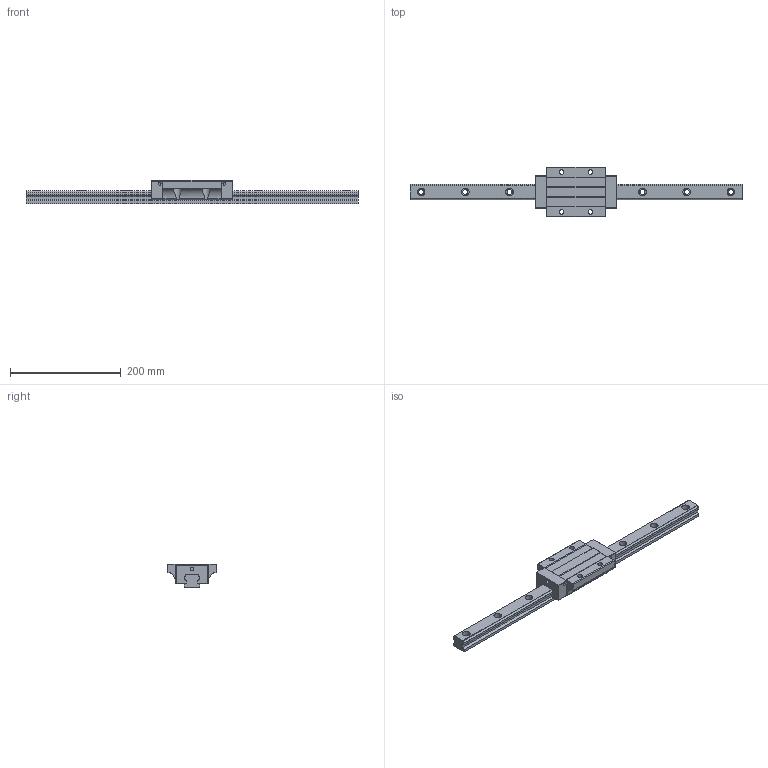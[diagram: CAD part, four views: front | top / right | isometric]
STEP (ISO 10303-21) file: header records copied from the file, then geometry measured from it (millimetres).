
FILE_DESCRIPTION (( 'STEP AP203' ), '1' );
FILE_NAME ('TRH30FE-SZ.STEP', '2024-06-26T06:28:45', ( '' ), ( '' ), 'SwSTEP 2.0', 'SolidWorks 2022', '' );
FILE_SCHEMA (( 'CONFIG_CONTROL_DESIGN' ));
Length unit declared in the file: millimetre
Products named in the file (1): TRH30FE-SZ
Bounding box: 600 x 90 x 42 mm (x, y, z)
Volume: 601398.3 mm3; surface area: 114613.9 mm2
Topology: 2 solids, 2 shells, 214 faces, 580 edges, 380 vertices
Faces by surface type: cylinder 116, plane 94, sphere 4
Entity records: 7465 total; most frequent: CARTESIAN_POINT 1829, DIRECTION 1184, ORIENTED_EDGE 1152, EDGE_CURVE 576, AXIS2_PLACEMENT_3D 421, VERTEX_POINT 380, VECTOR 342, LINE 342
